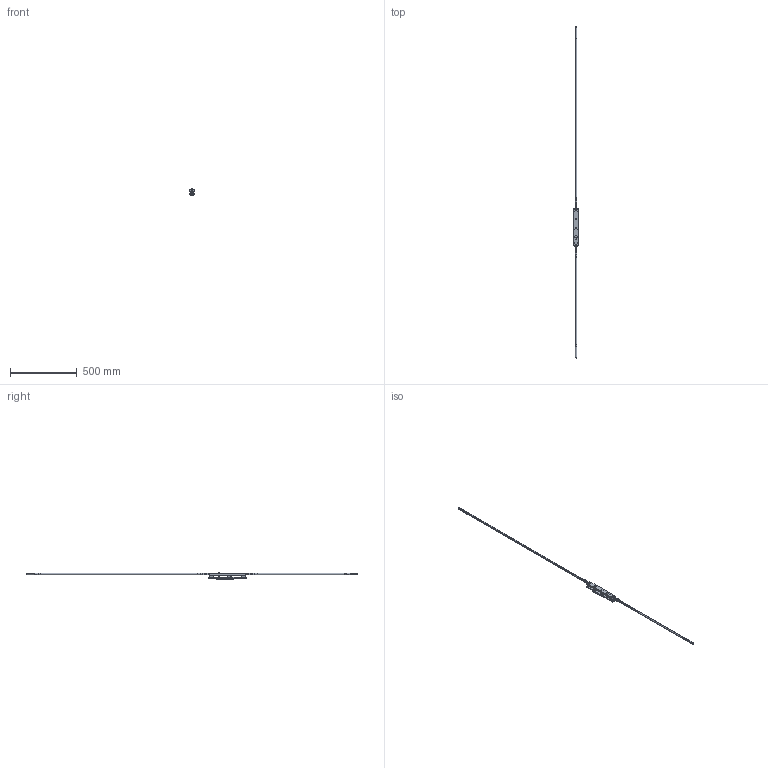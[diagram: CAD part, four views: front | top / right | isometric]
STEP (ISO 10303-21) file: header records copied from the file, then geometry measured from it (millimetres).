
FILE_DESCRIPTION (( 'STEP AP214' ), '1' );
FILE_NAME ('TPL-H-APC-102-C 17Oct2024.STEP', '2024-10-17T04:29:29', ( '' ), ( '' ), 'SwSTEP 2.0', 'SolidWorks 2023', '' );
FILE_SCHEMA (( 'AUTOMOTIVE_DESIGN' ));
Length unit declared in the file: millimetre
Products named in the file (16): Copy of LKC-532 Rod connector - simplified^TPL-H-APC-603 16Oct2024; Copy of LKC-583 Escutcheon plate unkeyed 285mm long zinc - simplified^Copy of TPGen2 handle non-keyed long zinc - simplified_TPL-H-APC-603 16Oct2024; Copy of TPL-H-APC-517 04Oct2024^TPL-H-APC-603 16Oct2024; Copy of TPLGen2 lock body keyed^Copy of TPLGen2 lock body keyed assembly_TPL-H-APC-603 16Oct2024_Left; TPL-H-APC-102-C 17Oct2024; Copy of TPLGen2 lock body keyed assembly^TPL-H-APC-603 16Oct2024_Bolts extended - left; Copy of LKC-540 Transmission rod aluminium system TPLGen2^TPL-H-APC-603 16Oct2024_2885mm; Copy of TPLGen2 push rod - simplified^Copy of TPLGen2 lock body keyed assembly_TPL-H-APC-603 16Oct2024_Female thread M10; Copy of LKC-585 Rotator body zinc^Copy of TPGen2 handle non-keyed long zinc - simplified_TPL-H-APC-603 16Oct2024; Copy of LKC-576 Bolt adaptor - simplified^TPL-H-APC-603 16Oct2024; Copy of LKC-584 Pivot body zinc - simplified^Copy of TPGen2 handle non-keyed long zinc - simplified_TPL-H-APC-603 16Oct2024; Copy (2) of LKC-540 Transmission rod aluminium system TPLGen2^TPL-H-APC-603 16Oct2024_2885mm; Copy of TPL-H-APC-516 04Oct2024^TPL-H-APC-603 16Oct2024; Copy of TPGen2 handle non-keyed long zinc - simplified^TPL-H-APC-603 16Oct2024_Vertical; Copy of LKC-505 Swing handle zinc - simplified^Copy of TPGen2 handle non-keyed long zinc - simplified_TPL-H-APC-603 16Oct2024; Copy of LKC-586 Spindle square 8mm with M4 hole^Copy of TPGen2 handle non-keyed long zinc - simplified_TPL-H-APC-603 16Oct2024_37mm
Assembly tree (21 placements, depth 3):
  TPL-H-APC-102-C 17Oct2024
    Copy of TPLGen2 lock body keyed assembly^TPL-H-APC-603 16Oct2024_Bolts extended - left
      Copy of TPLGen2 lock body keyed^Copy of TPLGen2 lock body keyed assembly_TPL-H-APC-603 16Oct2024_Left
      Copy of TPLGen2 push rod - simplified^Copy of TPLGen2 lock body keyed assembly_TPL-H-APC-603 16Oct2024_Female thread M10  x2
    Copy of TPGen2 handle non-keyed long zinc - simplified^TPL-H-APC-603 16Oct2024_Vertical
      Copy of LKC-583 Escutcheon plate unkeyed 285mm long zinc - simplified^Copy of TPGen2 handle non-keyed long zinc - simplified_TPL-H-APC-603 16Oct2024
      Copy of LKC-505 Swing handle zinc - simplified^Copy of TPGen2 handle non-keyed long zinc - simplified_TPL-H-APC-603 16Oct2024
      Copy of LKC-585 Rotator body zinc^Copy of TPGen2 handle non-keyed long zinc - simplified_TPL-H-APC-603 16Oct2024
      Copy of LKC-586 Spindle square 8mm with M4 hole^Copy of TPGen2 handle non-keyed long zinc - simplified_TPL-H-APC-603 16Oct2024_37mm
      Copy of LKC-584 Pivot body zinc - simplified^Copy of TPGen2 handle non-keyed long zinc - simplified_TPL-H-APC-603 16Oct2024
    Copy of LKC-532 Rod connector - simplified^TPL-H-APC-603 16Oct2024  x2
    Copy of LKC-540 Transmission rod aluminium system TPLGen2^TPL-H-APC-603 16Oct2024_2885mm
    Copy (2) of LKC-540 Transmission rod aluminium system TPLGen2^TPL-H-APC-603 16Oct2024_2885mm
    Copy of LKC-576 Bolt adaptor - simplified^TPL-H-APC-603 16Oct2024  x2
    Copy of TPL-H-APC-517 04Oct2024^TPL-H-APC-603 16Oct2024  x2
    Copy of TPL-H-APC-516 04Oct2024^TPL-H-APC-603 16Oct2024  x3
Bounding box: 35 x 2495.9 x 51.46 mm (x, y, z)
Volume: 330256 mm3; surface area: 229998.8 mm2
Topology: 19 solids, 19 shells, 1304 faces, 3158 edges, 1910 vertices
Faces by surface type: cylinder 408, plane 398, bspline 224, cone 122, torus 119, sphere 33
Entity records: 32059 total; most frequent: CARTESIAN_POINT 12880, ORIENTED_EDGE 4048, DIRECTION 3738, EDGE_CURVE 2024, AXIS2_PLACEMENT_3D 1479, VERTEX_POINT 1231, EDGE_LOOP 957, FACE_OUTER_BOUND 862
